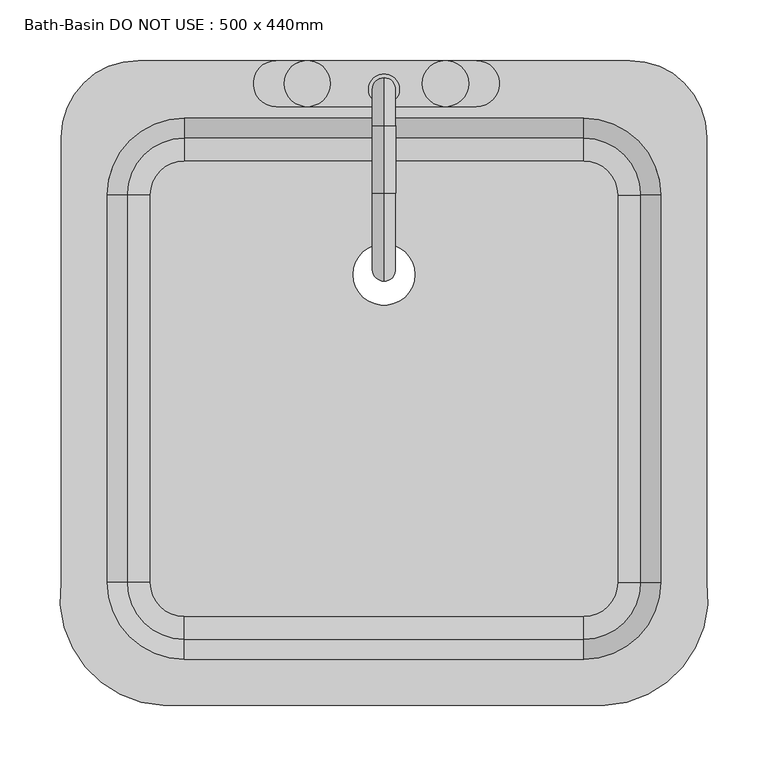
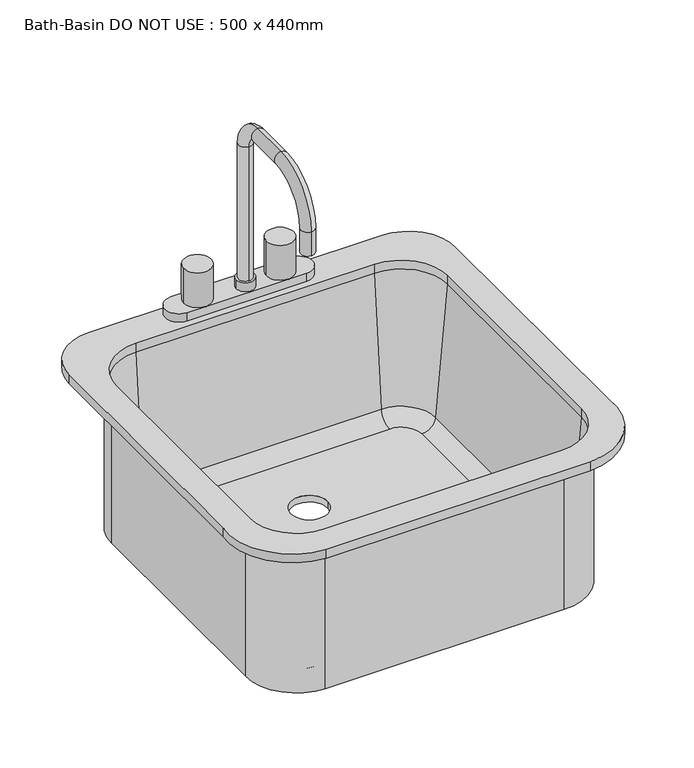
"""IFC4 building model written with IfcOpenShell, lengths in millimetres: flow terminal geometry, Bath-Basin DO NOT USE : 500 x 440mm."""

from ifc_helpers import new_model, si_unit, point, frame, origin, place, context, project, spatial, polyline, circle_curve, ellipse_curve, trimmed, source, transform, mapped, element, save
from ifc_brep_helpers import plane_surface, cylinder_surface, revolved_surface, advanced_brep


def bath_basin_do_not_use_500_x_440mm_3081fc1e(model_context):
    return source(origin(), model_context, "Body", "AdvancedBrep", [
        advanced_brep(
        [(250.6392406, 69.0204011, 546.1), (180.7892406, 138.8704011, 546.1), (180.7892406, 138.8704011, 762.0), (250.6392406, 69.0204011, 762.0), (250.6392406, -251.6545989, 546.1), (180.7892406, -321.5045989, 546.1), (-149.4107595, -321.5045989, 546.1), (-219.2607595, -251.6545989, 546.1), (-219.2607595, 69.0204011, 546.1), (-149.4107595, 138.8704011, 546.1), (-9.7107594, 3.175, 546.1), (41.0892406, 3.175, 546.1), (208.7776588, 69.0204011, 555.625), (180.7892406, 97.0088193, 555.625), (-149.4107595, 97.0088193, 555.625), (-177.3991777, 69.0204011, 555.625), (-177.3991777, -251.6545989, 555.625), (-149.4107595, -279.6430171, 555.625), (180.7892406, -279.6430171, 555.625), (208.7776588, -251.6545989, 555.625), (-9.7107594, 3.175, 555.625), (41.0892406, 3.175, 555.625), (227.7551678, 69.0204011, 573.0146831), (180.7892406, 115.9863283, 573.0146831), (244.2892406, 69.0204011, 762.0), (180.7892406, 132.5204011, 762.0), (250.6392406, -251.6545989, 762.0), (227.7551678, -251.6545989, 573.0146831), (244.2892406, -251.6545989, 762.0), (180.7892406, -321.5045989, 762.0), (180.7892406, -298.6205261, 573.0146831), (180.7892406, -315.1545989, 762.0), (-149.4107595, -321.5045989, 762.0), (-149.4107595, -298.6205261, 573.0146831), (-149.4107595, -315.1545989, 762.0), (-219.2607595, -251.6545989, 762.0), (-196.3766867, -251.6545989, 573.0146831), (-212.9107595, -251.6545989, 762.0), (-219.2607595, 69.0204011, 762.0), (-196.3766867, 69.0204011, 573.0146831), (-212.9107595, 69.0204011, 762.0), (-149.4107595, 138.8704011, 762.0), (-149.4107595, 115.9863283, 573.0146831), (-149.4107595, 132.5204011, 762.0), (-166.6606924, -353.2545989, 774.7), (198.0391735, -353.2545989, 774.7), (282.3892406, -251.6545989, 774.7), (282.3892406, 116.6454011, 774.7), (218.8892406, 180.1454011, 774.7), (-187.5107594, 180.1454011, 774.7), (-251.0107594, 116.6454011, 774.7), (-251.0107594, -251.6545982, 774.7), (180.7892406, 132.5204011, 774.7), (244.2892406, 69.0204011, 774.7), (244.2892406, -251.6545989, 774.7), (180.7892406, -315.1545989, 774.7), (-149.4107595, -315.1545989, 774.7), (-212.9107595, -251.6545989, 774.7), (-212.9107595, 69.0204011, 774.7), (-149.4107595, 132.5204011, 774.7), (-166.6606924, -353.2545989, 762.0), (-251.0107594, -251.6545982, 762.0), (-251.0107594, 116.6454011, 762.0), (-187.5107594, 180.1454011, 762.0), (218.8892406, 180.1454011, 762.0), (282.3892406, 116.6454011, 762.0), (282.3892406, -251.6545989, 762.0), (198.0391735, -353.2545989, 762.0)],
        [
            (0, 1, circle_curve(frame((180.7892406, 69.0204011, 546.1), z_axis=(0.0, 0.0, 1.0), x_axis=(0.0, 1.0, 0.0)), 69.85)),
            (1, 2),
            (2, 3, circle_curve(frame((180.7892406, 69.0204011, 762.0), z_axis=(0.0, 0.0, -1.0), x_axis=(0.0, 1.0, 0.0)), 69.85)),
            (3, 0),
            (0, 4),
            (4, 5, circle_curve(frame((180.7892406, -251.6545989, 546.1), z_axis=(0.0, 0.0, -1.0), x_axis=(1.0, 0.0, 0.0)), 69.85)),
            (5, 6),
            (6, 7, circle_curve(frame((-149.4107595, -251.6545989, 546.1), z_axis=(0.0, 0.0, -1.0), x_axis=(0.0, -1.0, 0.0)), 69.85)),
            (7, 8),
            (8, 9, circle_curve(frame((-149.4107595, 69.0204011, 546.1), z_axis=(0.0, 0.0, -1.0), x_axis=(-1.0, 0.0, 0.0)), 69.85)),
            (9, 1),
            (10, 11, circle_curve(frame((15.6892406, 3.175, 546.1), z_axis=(0.0, 0.0, 1.0), x_axis=(1.0, 0.0, 0.0)), 25.4)),
            (11, 10, circle_curve(frame((15.6892406, 3.175, 546.1), z_axis=(0.0, 0.0, 1.0), x_axis=(1.0, 0.0, 0.0)), 25.4)),
            (12, 13, circle_curve(frame((180.7892406, 69.0204011, 555.625), z_axis=(0.0, 0.0, 1.0), x_axis=(0.0, 1.0, 0.0)), 27.9884182)),
            (13, 14),
            (14, 15, circle_curve(frame((-149.4107595, 69.0204011, 555.625), z_axis=(0.0, 0.0, 1.0), x_axis=(-1.0, 0.0, 0.0)), 27.9884182)),
            (15, 16),
            (16, 17, circle_curve(frame((-149.4107595, -251.6545989, 555.625), z_axis=(0.0, 0.0, 1.0), x_axis=(0.0, -1.0, 0.0)), 27.9884182)),
            (17, 18),
            (18, 19, circle_curve(frame((180.7892406, -251.6545989, 555.625), z_axis=(0.0, 0.0, 1.0), x_axis=(1.0, 0.0, 0.0)), 27.9884182)),
            (19, 12),
            (20, 21, circle_curve(frame((15.6892406, 3.175, 555.625), z_axis=(0.0, 0.0, -1.0), x_axis=(1.0, 0.0, 0.0)), 25.4)),
            (21, 20, circle_curve(frame((15.6892406, 3.175, 555.625), z_axis=(0.0, 0.0, -1.0), x_axis=(1.0, 0.0, 0.0)), 25.4)),
            (12, 22, circle_curve(frame((208.7776588, 69.0204011, 574.675), z_axis=(0.0, -1.0, 0.0), x_axis=(1.0, 0.0, 0.0)), 19.05)),
            (22, 23, circle_curve(frame((180.7892406, 69.0204011, 573.0146831), z_axis=(0.0, 0.0, 1.0), x_axis=(0.0, 1.0, 0.0)), 46.9659272)),
            (23, 13, circle_curve(frame((180.7892406, 97.0088193, 574.675), z_axis=(-1.0, 0.0, 0.0), x_axis=(0.0, 1.0, 0.0)), 19.05)),
            (22, 24),
            (24, 25, circle_curve(frame((180.7892406, 69.0204011, 762.0), z_axis=(0.0, 0.0, 1.0), x_axis=(0.0, 1.0, 0.0)), 63.5)),
            (25, 23),
            (3, 26),
            (26, 4),
            (19, 27, circle_curve(frame((208.7776588, -251.6545989, 574.675), z_axis=(0.0, -1.0, 0.0), x_axis=(1.0, 0.0, 0.0)), 19.05)),
            (27, 22),
            (27, 28),
            (28, 24),
            (26, 29, circle_curve(frame((180.7892406, -251.6545989, 762.0), z_axis=(0.0, 0.0, -1.0), x_axis=(1.0, 0.0, 0.0)), 69.85)),
            (29, 5),
            (18, 30, circle_curve(frame((180.7892406, -279.6430171, 574.675), z_axis=(-1.0, 0.0, 0.0), x_axis=(0.0, -1.0, 0.0)), 19.05)),
            (30, 27, circle_curve(frame((180.7892406, -251.6545989, 573.0146831), z_axis=(0.0, 0.0, 1.0), x_axis=(1.0, 0.0, 0.0)), 46.9659272)),
            (30, 31),
            (31, 28, circle_curve(frame((180.7892406, -251.6545989, 762.0), z_axis=(0.0, 0.0, 1.0), x_axis=(1.0, 0.0, 0.0)), 63.5)),
            (29, 32),
            (32, 6),
            (17, 33, circle_curve(frame((-149.4107595, -279.6430171, 574.675), z_axis=(-1.0, 0.0, 0.0), x_axis=(0.0, -1.0, 0.0)), 19.05)),
            (33, 30),
            (33, 34),
            (34, 31),
            (32, 35, circle_curve(frame((-149.4107595, -251.6545989, 762.0), z_axis=(0.0, 0.0, -1.0), x_axis=(0.0, -1.0, 0.0)), 69.85)),
            (35, 7),
            (16, 36, circle_curve(frame((-177.3991777, -251.6545989, 574.675), z_axis=(0.0, 1.0, 0.0), x_axis=(-1.0, 0.0, 0.0)), 19.05)),
            (36, 33, circle_curve(frame((-149.4107595, -251.6545989, 573.0146831), z_axis=(0.0, 0.0, 1.0), x_axis=(0.0, -1.0, 0.0)), 46.9659272)),
            (36, 37),
            (37, 34, circle_curve(frame((-149.4107595, -251.6545989, 762.0), z_axis=(0.0, 0.0, 1.0), x_axis=(0.0, -1.0, 0.0)), 63.5)),
            (35, 38),
            (38, 8),
            (15, 39, circle_curve(frame((-177.3991777, 69.0204011, 574.675), z_axis=(0.0, 1.0, 0.0), x_axis=(-1.0, 0.0, 0.0)), 19.05)),
            (39, 36),
            (39, 40),
            (40, 37),
            (38, 41, circle_curve(frame((-149.4107595, 69.0204011, 762.0), z_axis=(0.0, 0.0, -1.0), x_axis=(-1.0, 0.0, 0.0)), 69.85)),
            (41, 9),
            (14, 42, circle_curve(frame((-149.4107595, 97.0088193, 574.675), z_axis=(1.0, 0.0, 0.0), x_axis=(0.0, 1.0, 0.0)), 19.05)),
            (42, 39, circle_curve(frame((-149.4107595, 69.0204011, 573.0146831), z_axis=(0.0, 0.0, 1.0), x_axis=(-1.0, 0.0, 0.0)), 46.9659272)),
            (42, 43),
            (43, 40, circle_curve(frame((-149.4107595, 69.0204011, 762.0), z_axis=(0.0, 0.0, 1.0), x_axis=(-1.0, 0.0, 0.0)), 63.5)),
            (41, 2),
            (23, 42),
            (25, 43),
            (20, 10),
            (11, 21),
            (44, 45),
            (45, 46, circle_curve(frame((194.2319558, -264.2793432, 774.7), z_axis=(0.0, 0.0, 1.0), x_axis=(1.0, 0.0, 0.0)), 89.0566732)),
            (46, 47),
            (47, 48, circle_curve(frame((218.8892406, 116.6454011, 774.7), z_axis=(0.0, 0.0, 1.0), x_axis=(1.0, 0.0, 0.0)), 63.5)),
            (48, 49),
            (49, 50, circle_curve(frame((-187.5107594, 116.6454011, 774.7), z_axis=(0.0, 0.0, 1.0), x_axis=(1.0, 0.0, 0.0)), 63.5)),
            (50, 51),
            (51, 44, circle_curve(frame((-162.8534746, -264.2793432, 774.7), z_axis=(0.0, 0.0, 1.0), x_axis=(1.0, 0.0, 0.0)), 89.0566732)),
            (52, 53, circle_curve(frame((180.7892406, 69.0204011, 774.7), z_axis=(0.0, 0.0, -1.0), x_axis=(1.0, 0.0, 0.0)), 63.5)),
            (53, 54),
            (54, 55, circle_curve(frame((180.7892406, -251.6545989, 774.7), z_axis=(0.0, 0.0, -1.0), x_axis=(1.0, 0.0, 0.0)), 63.5)),
            (55, 56),
            (56, 57, circle_curve(frame((-149.4107595, -251.6545989, 774.7), z_axis=(0.0, 0.0, -1.0), x_axis=(1.0, 0.0, 0.0)), 63.5)),
            (57, 58),
            (58, 59, circle_curve(frame((-149.4107595, 69.0204011, 774.7), z_axis=(0.0, 0.0, -1.0), x_axis=(1.0, 0.0, 0.0)), 63.5)),
            (59, 52),
            (60, 61, circle_curve(frame((-162.8534746, -264.2793432, 762.0), z_axis=(0.0, 0.0, -1.0), x_axis=(1.0, 0.0, 0.0)), 89.0566732)),
            (61, 62),
            (62, 63, circle_curve(frame((-187.5107594, 116.6454011, 762.0), z_axis=(0.0, 0.0, -1.0), x_axis=(1.0, 0.0, 0.0)), 63.5)),
            (63, 64),
            (64, 65, circle_curve(frame((218.8892406, 116.6454011, 762.0), z_axis=(0.0, 0.0, -1.0), x_axis=(1.0, 0.0, 0.0)), 63.5)),
            (65, 66),
            (66, 67, circle_curve(frame((194.2319558, -264.2793432, 762.0), z_axis=(0.0, 0.0, -1.0), x_axis=(1.0, 0.0, 0.0)), 89.0566732)),
            (67, 60),
            (44, 60),
            (67, 45),
            (66, 46),
            (65, 47),
            (64, 48),
            (63, 49),
            (62, 50),
            (61, 51),
            (52, 25),
            (24, 53),
            (28, 54),
            (31, 55),
            (34, 56),
            (37, 57),
            (40, 58),
            (43, 59),
        ],
        [
            cylinder_surface(frame((180.7892406, 69.0204011, 0.0), z_axis=(0.0, 0.0, -1.0), x_axis=(0.0, 1.0, 0.0)), 69.85),
            plane_surface(frame((180.7892406, 69.0204011, 546.1), z_axis=(0.0, 0.0, -1.0), x_axis=(0.0, 1.0, 0.0))),
            plane_surface(frame((180.7892406, 69.0204011, 555.625), z_axis=(0.0, 0.0, 1.0), x_axis=(0.0, 1.0, 0.0))),
            revolved_surface(trimmed(ellipse_curve(frame((180.7892406, 97.0088193, 574.675), z_axis=(1.0, 0.0, 0.0), x_axis=(0.0, 1.0, 0.0)), 19.05, 19.05), [point((180.7892406, 97.0088193, 555.625))], [point((180.7892406, 115.9863283, 573.0146831))], True, "CARTESIAN"), (180.7892406, 69.0204011, 0.0), (0.0, 0.0, -1.0)),
            revolved_surface(polyline([(180.7892406, 115.9863283, 573.0146831), (180.7892406, 132.5204011, 762.0)]), (180.7892406, 69.0204011, 0.0), (0.0, 0.0, -1.0)),
            plane_surface(frame((250.6392406, 69.0204011, 762.0), z_axis=(1.0, 0.0, 0.0), x_axis=(0.0, -1.0, 0.0))),
            revolved_surface(polyline([(227.82765880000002, -251.6545989, 574.675), (227.82765880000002, 69.0204011, 574.675)]), (208.7776588, 69.0204011, 574.675), (0.0, -1.0, 0.0)),
            plane_surface(frame((227.7551678, 69.0204011, 573.0146831), z_axis=(-0.9961946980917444, 0.0, 0.08715574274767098), x_axis=(0.0, -1.0, 0.0))),
            cylinder_surface(frame((180.7892406, -251.6545989, 0.0), z_axis=(0.0, 0.0, -1.0), x_axis=(1.0, 0.0, 0.0)), 69.85),
            revolved_surface(trimmed(ellipse_curve(frame((208.7776588, -251.6545989, 574.675), z_axis=(0.0, -1.0, 0.0), x_axis=(1.0, 0.0, 0.0)), 19.05, 19.05), [point((208.7776588, -251.6545989, 555.625))], [point((227.7551678, -251.6545989, 573.0146831))], True, "CARTESIAN"), (180.7892406, -251.6545989, 0.0), (0.0, 0.0, -1.0)),
            revolved_surface(polyline([(227.7551678, -251.6545989, 573.0146831), (244.2892406, -251.6545989, 762.0)]), (180.7892406, -251.6545989, 0.0), (0.0, 0.0, -1.0)),
            plane_surface(frame((180.7892406, -321.5045989, 762.0), z_axis=(0.0, -1.0, 0.0), x_axis=(-1.0, 0.0, 0.0))),
            revolved_surface(polyline([(-149.4107595, -298.6930171, 574.675), (180.7892406, -298.6930171, 574.675)]), (180.7892406, -279.6430171, 574.675), (-1.0, 0.0, 0.0)),
            plane_surface(frame((180.7892406, -298.6205261, 573.0146831), z_axis=(0.0, 0.9961946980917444, 0.08715574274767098), x_axis=(-1.0, 0.0, 0.0))),
            cylinder_surface(frame((-149.4107595, -251.6545989, 0.0), z_axis=(0.0, 0.0, -1.0), x_axis=(0.0, -1.0, 0.0)), 69.85),
            revolved_surface(trimmed(ellipse_curve(frame((-149.4107595, -279.6430171, 574.675), z_axis=(-1.0, 0.0, 0.0), x_axis=(0.0, -1.0, 0.0)), 19.05, 19.05), [point((-149.4107595, -279.6430171, 555.625))], [point((-149.4107595, -298.6205261, 573.0146831))], True, "CARTESIAN"), (-149.4107595, -251.6545989, 0.0), (0.0, 0.0, -1.0)),
            revolved_surface(polyline([(-149.4107595, -298.6205261, 573.0146831), (-149.4107595, -315.1545989, 762.0)]), (-149.4107595, -251.6545989, 0.0), (0.0, 0.0, -1.0)),
            plane_surface(frame((-219.2607595, -251.6545989, 762.0), z_axis=(-1.0, 0.0, 0.0), x_axis=(0.0, 1.0, 0.0))),
            revolved_surface(polyline([(-196.4491777, 69.02040110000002, 574.675), (-196.4491777, -251.6545989, 574.675)]), (-177.3991777, -251.6545989, 574.675), (0.0, 1.0, 0.0)),
            plane_surface(frame((-196.3766867, -251.6545989, 573.0146831), z_axis=(0.9961946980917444, 0.0, 0.08715574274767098), x_axis=(0.0, 1.0, 0.0))),
            cylinder_surface(frame((-149.4107595, 69.0204011, 0.0), z_axis=(0.0, 0.0, -1.0), x_axis=(-1.0, 0.0, 0.0)), 69.85),
            revolved_surface(trimmed(ellipse_curve(frame((-177.3991777, 69.0204011, 574.675), z_axis=(0.0, 1.0, 0.0), x_axis=(-1.0, 0.0, 0.0)), 19.05, 19.05), [point((-177.3991777, 69.0204011, 555.625))], [point((-196.3766867, 69.0204011, 573.0146831))], True, "CARTESIAN"), (-149.4107595, 69.0204011, 0.0), (0.0, 0.0, -1.0)),
            revolved_surface(polyline([(-196.3766867, 69.0204011, 573.0146831), (-212.9107595, 69.0204011, 762.0)]), (-149.4107595, 69.0204011, 0.0), (0.0, 0.0, -1.0)),
            plane_surface(frame((-149.4107595, 138.8704011, 762.0), z_axis=(0.0, 1.0, 0.0), x_axis=(1.0, 0.0, 0.0))),
            revolved_surface(polyline([(180.7892406, 116.0588193, 574.675), (-149.4107595, 116.0588193, 574.675)]), (-149.4107595, 97.0088193, 574.675), (1.0, 0.0, 0.0)),
            plane_surface(frame((-149.4107595, 115.9863283, 573.0146831), z_axis=(0.0, -0.9961946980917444, 0.08715574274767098), x_axis=(1.0, 0.0, 0.0))),
            revolved_surface(polyline([(41.0892406, 3.175, 546.1), (41.0892406, 3.175, 555.625)]), (15.6892406, 3.175, 0.0), (0.0, 0.0, -1.0)),
            plane_surface(frame((198.0391735, -353.2545989, 774.7), z_axis=(0.0, 0.0, 1.0), x_axis=(1.0, 0.0, 0.0))),
            plane_surface(frame((198.0391735, -353.2545989, 762.0), z_axis=(0.0, 0.0, -1.0), x_axis=(-1.0, 0.0, 0.0))),
            plane_surface(frame((-166.6606924, -353.2545989, 774.7), z_axis=(0.0, -1.0, 0.0), x_axis=(0.0, 0.0, -1.0))),
            cylinder_surface(frame((194.2319558, -264.2793432, 762.0), z_axis=(0.0, 0.0, 1.0), x_axis=(1.0, 0.0, 0.0)), 89.0566732),
            plane_surface(frame((282.3892406, -251.6545989, 774.7), z_axis=(1.0, 0.0, 0.0), x_axis=(0.0, 0.0, -1.0))),
            cylinder_surface(frame((218.8892406, 116.6454011, 762.0), z_axis=(0.0, 0.0, 1.0), x_axis=(1.0, 0.0, 0.0)), 63.5),
            plane_surface(frame((218.8892406, 180.1454011, 774.7), z_axis=(0.0, 1.0, 0.0), x_axis=(0.0, 0.0, -1.0))),
            cylinder_surface(frame((-187.5107594, 116.6454011, 762.0), z_axis=(0.0, 0.0, 1.0), x_axis=(1.0, 0.0, 0.0)), 63.5),
            plane_surface(frame((-251.0107594, 116.6454011, 774.7), z_axis=(-1.0, 0.0, 0.0), x_axis=(0.0, 0.0, -1.0))),
            cylinder_surface(frame((-162.8534746, -264.2793432, 762.0), z_axis=(0.0, 0.0, 1.0), x_axis=(1.0, 0.0, 0.0)), 89.0566732),
            revolved_surface(polyline([(244.2892406, 69.0204011, 762.0), (244.2892406, 69.0204011, 774.7)]), (180.7892406, 69.0204011, 0.0), (0.0, 0.0, -1.0)),
            plane_surface(frame((244.2892406, 69.0204011, 774.7), z_axis=(-1.0, 0.0, 0.0), x_axis=(0.0, 0.0, -1.0))),
            revolved_surface(polyline([(244.2892406, -251.6545989, 762.0), (244.2892406, -251.6545989, 774.7)]), (180.7892406, -251.6545989, 0.0), (0.0, 0.0, -1.0)),
            plane_surface(frame((180.7892406, -315.1545989, 774.7), z_axis=(0.0, 1.0, 0.0), x_axis=(0.0, 0.0, -1.0))),
            revolved_surface(polyline([(-85.91075950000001, -251.6545989, 762.0), (-85.91075950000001, -251.6545989, 774.7)]), (-149.4107595, -251.6545989, 0.0), (0.0, 0.0, -1.0)),
            plane_surface(frame((-212.9107595, -251.6545989, 774.7), z_axis=(1.0, 0.0, 0.0), x_axis=(0.0, 0.0, -1.0))),
            revolved_surface(polyline([(-85.91075950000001, 69.0204011, 762.0), (-85.91075950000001, 69.0204011, 774.7)]), (-149.4107595, 69.0204011, 0.0), (0.0, 0.0, -1.0)),
            plane_surface(frame((-149.4107595, 132.5204011, 774.7), z_axis=(0.0, -1.0, 0.0), x_axis=(0.0, 0.0, -1.0))),
        ],
        [
            (0, [[1, 2, 3, 4]]),
            (1, [[-1, 5, 6, 7, 8, 9, 10, 11], [12, 13]]),
            (2, [[14, 15, 16, 17, 18, 19, 20, 21], [22, 23]]),
            (3, [[-14, 24, 25, 26]]),
            (4, [[-25, 27, 28, 29]]),
            (5, [[-4, 30, 31, -5]]),
            (6, [[-24, -21, 32, 33]]),
            (7, [[-27, -33, 34, 35]]),
            (8, [[-31, 36, 37, -6]]),
            (9, [[-32, -20, 38, 39]]),
            (10, [[-34, -39, 40, 41]]),
            (11, [[-37, 42, 43, -7]]),
            (12, [[-38, -19, 44, 45]]),
            (13, [[-40, -45, 46, 47]]),
            (14, [[-43, 48, 49, -8]]),
            (15, [[-44, -18, 50, 51]]),
            (16, [[-46, -51, 52, 53]]),
            (17, [[-49, 54, 55, -9]]),
            (18, [[-50, -17, 56, 57]]),
            (19, [[-52, -57, 58, 59]]),
            (20, [[-55, 60, 61, -10]]),
            (21, [[-56, -16, 62, 63]]),
            (22, [[-58, -63, 64, 65]]),
            (23, [[-2, -11, -61, 66]]),
            (24, [[-26, 67, -62, -15]]),
            (25, [[-29, 68, -64, -67]]),
            (26, [[-22, 69, -13, 70]]),
            (26, [[-23, -70, -12, -69]]),
            (27, [[71, 72, 73, 74, 75, 76, 77, 78], [79, 80, 81, 82, 83, 84, 85, 86]]),
            (28, [[87, 88, 89, 90, 91, 92, 93, 94], [-3, -66, -60, -54, -48, -42, -36, -30]]),
            (29, [[-71, 95, -94, 96]]),
            (30, [[-72, -96, -93, 97]]),
            (31, [[-73, -97, -92, 98]]),
            (32, [[-74, -98, -91, 99]]),
            (33, [[-75, -99, -90, 100]]),
            (34, [[-76, -100, -89, 101]]),
            (35, [[-77, -101, -88, 102]]),
            (36, [[-78, -102, -87, -95]]),
            (37, [[-79, 103, -28, 104]]),
            (38, [[-80, -104, -35, 105]]),
            (39, [[-81, -105, -41, 106]]),
            (40, [[-82, -106, -47, 107]]),
            (41, [[-83, -107, -53, 108]]),
            (42, [[-84, -108, -59, 109]]),
            (43, [[-85, -109, -65, 110]]),
            (44, [[-86, -110, -68, -103]]),
        ],
    ),
        advanced_brep(
        [(91.8892406, 180.1454011, 774.7), (91.8892406, 142.0454011, 774.7), (66.4892406, 142.0454011, 774.7), (-47.8107594, 142.0454011, 774.7), (-73.2107594, 142.0454011, 774.7), (-73.2107594, 180.1454011, 774.7), (-47.8107594, 180.1454011, 774.7), (66.4892406, 180.1454011, 774.7), (15.6892406, 165.8579011, 995.3625), (15.6892406, 146.8079011, 995.3625), (15.6892406, 146.8079011, 800.1), (15.6892406, 165.8579011, 800.1), (15.6892406, 126.1704011, 1035.05), (15.6892406, 126.1704011, 1016.0), (15.6892406, 70.6079011, 1035.05), (15.6892406, 70.6079011, 1016.0), (15.6892406, -2.4170989, 962.025), (15.6892406, 16.6329011, 962.025), (15.6892406, -2.4170989, 927.1), (15.6892406, 16.6329011, 927.1), (2.9892406, 156.3329011, 800.1), (28.3892406, 156.3329011, 800.1), (2.9892406, 156.3329011, 787.2), (28.3892406, 156.3329011, 787.2), (-73.2107594, 180.1454011, 787.2), (-73.2107594, 142.0454011, 787.2), (-47.8107594, 142.0454011, 787.2), (-66.8607594, 161.0954011, 787.2), (-47.8107594, 180.1454011, 787.2), (91.8892406, 142.0454011, 787.2), (91.8892406, 180.1454011, 787.2), (66.4892406, 180.1454011, 787.2), (85.5392406, 161.0954011, 787.2), (66.4892406, 142.0454011, 787.2), (-28.7607594, 161.0954011, 787.2), (47.4392406, 161.0954011, 787.2), (-66.8607594, 161.0954011, 838.2), (-28.7607594, 161.0954011, 838.2), (47.4392406, 161.0954011, 838.2), (85.5392406, 161.0954011, 838.2)],
        [
            (0, 1, circle_curve(frame((91.8892406, 161.0954011, 774.7), z_axis=(0.0, 0.0, -1.0), x_axis=(1.0, 0.0, 0.0)), 19.05)),
            (1, 2),
            (2, 3),
            (3, 4),
            (4, 5, circle_curve(frame((-73.2107594, 161.0954011, 774.7), z_axis=(0.0, 0.0, -1.0), x_axis=(1.0, 0.0, 0.0)), 19.05)),
            (5, 6),
            (6, 7),
            (7, 0),
            (8, 9, circle_curve(frame((15.6892406, 156.3329011, 995.3625), z_axis=(0.0, 0.0, -1.0), x_axis=(0.0, -1.0, 0.0)), 9.525)),
            (9, 10),
            (10, 11, circle_curve(frame((15.6892406, 156.3329011, 800.1), z_axis=(0.0, 0.0, 1.0), x_axis=(0.0, -1.0, 0.0)), 9.525)),
            (11, 8),
            (9, 8, circle_curve(frame((15.6892406, 156.3329011, 995.3625), z_axis=(0.0, 0.0, -1.0), x_axis=(0.0, -1.0, 0.0)), 9.525)),
            (11, 10, circle_curve(frame((15.6892406, 156.3329011, 800.1), z_axis=(0.0, 0.0, 1.0), x_axis=(0.0, -1.0, 0.0)), 9.525)),
            (8, 12, circle_curve(frame((15.6892406, 126.1704011, 995.3625), z_axis=(1.0, 0.0, 0.0), x_axis=(0.0, 1.0, 0.0)), 39.6875)),
            (12, 13, circle_curve(frame((15.6892406, 126.1704011, 1025.525), z_axis=(0.0, 1.0, 0.0), x_axis=(0.0, 0.0, -1.0)), 9.525)),
            (13, 9, circle_curve(frame((15.6892406, 126.1704011, 995.3625), z_axis=(-1.0, 0.0, 0.0), x_axis=(0.0, 1.0, 0.0)), 20.6375)),
            (13, 12, circle_curve(frame((15.6892406, 126.1704011, 1025.525), z_axis=(0.0, 1.0, 0.0), x_axis=(0.0, 0.0, -1.0)), 9.525)),
            (12, 14),
            (14, 15, circle_curve(frame((15.6892406, 70.6079011, 1025.525), z_axis=(0.0, 1.0, 0.0), x_axis=(0.0, 0.0, -1.0)), 9.525)),
            (15, 13),
            (15, 14, circle_curve(frame((15.6892406, 70.6079011, 1025.525), z_axis=(0.0, 1.0, 0.0), x_axis=(0.0, 0.0, -1.0)), 9.525)),
            (14, 16, circle_curve(frame((15.6892406, 70.6079011, 962.025), z_axis=(1.0, 0.0, 0.0), x_axis=(0.0, 0.0, 1.0)), 73.025)),
            (16, 17, circle_curve(frame((15.6892406, 7.1079011, 962.025), z_axis=(0.0, 0.0, 1.0), x_axis=(0.0, 1.0, 0.0)), 9.525)),
            (17, 15, circle_curve(frame((15.6892406, 70.6079011, 962.025), z_axis=(-1.0, 0.0, 0.0), x_axis=(0.0, 0.0, 1.0)), 53.975)),
            (17, 16, circle_curve(frame((15.6892406, 7.1079011, 962.025), z_axis=(0.0, 0.0, 1.0), x_axis=(0.0, 1.0, 0.0)), 9.525)),
            (18, 19, circle_curve(frame((15.6892406, 7.1079011, 927.1), z_axis=(0.0, 0.0, -1.0), x_axis=(0.0, 1.0, 0.0)), 9.525)),
            (19, 18, circle_curve(frame((15.6892406, 7.1079011, 927.1), z_axis=(0.0, 0.0, -1.0), x_axis=(0.0, 1.0, 0.0)), 9.525)),
            (16, 18),
            (19, 17),
            (20, 21, circle_curve(frame((15.6892406, 156.3329011, 800.1), z_axis=(0.0, 0.0, 1.0), x_axis=(1.0, 0.0, 0.0)), 12.7)),
            (21, 20, circle_curve(frame((15.6892406, 156.3329011, 800.1), z_axis=(0.0, 0.0, 1.0), x_axis=(1.0, 0.0, 0.0)), 12.7)),
            (20, 22),
            (22, 23, circle_curve(frame((15.6892406, 156.3329011, 787.2), z_axis=(0.0, 0.0, 1.0), x_axis=(1.0, 0.0, 0.0)), 12.7)),
            (23, 21),
            (23, 22, circle_curve(frame((15.6892406, 156.3329011, 787.2), z_axis=(0.0, 0.0, 1.0), x_axis=(1.0, 0.0, 0.0)), 12.7)),
            (24, 25, circle_curve(frame((-73.2107594, 161.0954011, 787.2), z_axis=(0.0, 0.0, 1.0), x_axis=(1.0, 0.0, 0.0)), 19.05)),
            (25, 26),
            (26, 27, circle_curve(frame((-47.8107594, 161.0954011, 787.2), z_axis=(0.0, 0.0, -1.0), x_axis=(1.0, 0.0, 0.0)), 19.05)),
            (27, 28, circle_curve(frame((-47.8107594, 161.0954011, 787.2), z_axis=(0.0, 0.0, -1.0), x_axis=(1.0, 0.0, 0.0)), 19.05)),
            (28, 24),
            (29, 30, circle_curve(frame((91.8892406, 161.0954011, 787.2), z_axis=(0.0, 0.0, 1.0), x_axis=(1.0, 0.0, 0.0)), 19.05)),
            (30, 31),
            (31, 32, circle_curve(frame((66.4892406, 161.0954011, 787.2), z_axis=(0.0, 0.0, -1.0), x_axis=(1.0, 0.0, 0.0)), 19.05)),
            (32, 33, circle_curve(frame((66.4892406, 161.0954011, 787.2), z_axis=(0.0, 0.0, -1.0), x_axis=(1.0, 0.0, 0.0)), 19.05)),
            (33, 29),
            (31, 28),
            (28, 34, circle_curve(frame((-47.8107594, 161.0954011, 787.2), z_axis=(0.0, 0.0, -1.0), x_axis=(1.0, 0.0, 0.0)), 19.05)),
            (34, 26, circle_curve(frame((-47.8107594, 161.0954011, 787.2), z_axis=(0.0, 0.0, -1.0), x_axis=(1.0, 0.0, 0.0)), 19.05)),
            (26, 33),
            (33, 35, circle_curve(frame((66.4892406, 161.0954011, 787.2), z_axis=(0.0, 0.0, -1.0), x_axis=(1.0, 0.0, 0.0)), 19.05)),
            (35, 31, circle_curve(frame((66.4892406, 161.0954011, 787.2), z_axis=(0.0, 0.0, -1.0), x_axis=(1.0, 0.0, 0.0)), 19.05)),
            (30, 0),
            (5, 24),
            (4, 25),
            (1, 29),
            (36, 37, circle_curve(frame((-47.8107594, 161.0954011, 838.2), z_axis=(0.0, 0.0, 1.0), x_axis=(1.0, 0.0, 0.0)), 19.05)),
            (37, 36, circle_curve(frame((-47.8107594, 161.0954011, 838.2), z_axis=(0.0, 0.0, 1.0), x_axis=(1.0, 0.0, 0.0)), 19.05)),
            (38, 39, circle_curve(frame((66.4892406, 161.0954011, 838.2), z_axis=(0.0, 0.0, 1.0), x_axis=(1.0, 0.0, 0.0)), 19.05)),
            (39, 38, circle_curve(frame((66.4892406, 161.0954011, 838.2), z_axis=(0.0, 0.0, 1.0), x_axis=(1.0, 0.0, 0.0)), 19.05)),
            (36, 27),
            (34, 37),
            (38, 35),
            (32, 39),
        ],
        [
            plane_surface(frame((15.6892406, 146.8079011, 774.7), z_axis=(0.0, 0.0, -1.0), x_axis=(1.0, 0.0, 0.0))),
            cylinder_surface(frame((15.6892406, 156.3329011, 774.7), z_axis=(0.0, 0.0, -1.0), x_axis=(0.0, -1.0, 0.0)), 9.525),
            revolved_surface(trimmed(ellipse_curve(frame((15.6892406, 156.3329011, 995.3625), z_axis=(0.0, 0.0, -1.0), x_axis=(0.0, -1.0, 0.0)), 9.525, 9.525), [point((15.6892406, 165.8579011, 995.3625))], [point((15.6892406, 146.8079011, 995.3625))], True, "CARTESIAN"), (15.6892406, 126.1704011, 995.3625), (1.0, 0.0, 0.0)),
            revolved_surface(trimmed(ellipse_curve(frame((15.6892406, 156.3329011, 995.3625), z_axis=(0.0, 0.0, -1.0), x_axis=(0.0, -1.0, 0.0)), 9.525, 9.525), [point((15.6892406, 146.8079011, 995.3625))], [point((15.6892406, 165.8579011, 995.3625))], True, "CARTESIAN"), (15.6892406, 126.1704011, 995.3625), (1.0, 0.0, 0.0)),
            cylinder_surface(frame((15.6892406, 126.1704011, 1025.525), z_axis=(0.0, 1.0, 0.0), x_axis=(0.0, 0.0, -1.0)), 9.525),
            revolved_surface(trimmed(ellipse_curve(frame((15.6892406, 70.6079011, 1025.525), z_axis=(0.0, 1.0, 0.0), x_axis=(0.0, 0.0, -1.0)), 9.525, 9.525), [point((15.6892406, 70.6079011, 1035.05))], [point((15.6892406, 70.6079011, 1016.0))], True, "CARTESIAN"), (15.6892406, 70.6079011, 962.025), (1.0, 0.0, 0.0)),
            revolved_surface(trimmed(ellipse_curve(frame((15.6892406, 70.6079011, 1025.525), z_axis=(0.0, 1.0, 0.0), x_axis=(0.0, 0.0, -1.0)), 9.525, 9.525), [point((15.6892406, 70.6079011, 1016.0))], [point((15.6892406, 70.6079011, 1035.05))], True, "CARTESIAN"), (15.6892406, 70.6079011, 962.025), (1.0, 0.0, 0.0)),
            plane_surface(frame((15.6892406, -2.4170989, 927.1), z_axis=(0.0, 0.0, -1.0), x_axis=(-1.0, 0.0, 0.0))),
            cylinder_surface(frame((15.6892406, 7.1079011, 962.025), z_axis=(0.0, 0.0, 1.0), x_axis=(0.0, 1.0, 0.0)), 9.525),
            plane_surface(frame((28.3892406, 156.3329011, 800.1), z_axis=(0.0, 0.0, 1.0), x_axis=(0.0, 1.0, 0.0))),
            cylinder_surface(frame((15.6892406, 156.3329011, 774.7), z_axis=(0.0, 0.0, 1.0), x_axis=(1.0, 0.0, 0.0)), 12.7),
            plane_surface(frame((-73.2107594, 180.1454011, 787.2), z_axis=(0.0, 0.0, 1.0), x_axis=(-1.0, 0.0, 0.0))),
            plane_surface(frame((91.8892406, 180.1454011, 787.2), z_axis=(0.0, 1.0, 0.0), x_axis=(0.0, 0.0, -1.0))),
            cylinder_surface(frame((-73.2107594, 161.0954011, 774.7), z_axis=(0.0, 0.0, 1.0), x_axis=(1.0, 0.0, 0.0)), 19.05),
            plane_surface(frame((-73.2107594, 142.0454011, 787.2), z_axis=(0.0, -1.0, 0.0), x_axis=(0.0, 0.0, -1.0))),
            cylinder_surface(frame((91.8892406, 161.0954011, 774.7), z_axis=(0.0, 0.0, 1.0), x_axis=(1.0, 0.0, 0.0)), 19.05),
            plane_surface(frame((-28.7607594, 161.0954011, 838.2), z_axis=(0.0, 0.0, 1.0), x_axis=(0.0, 1.0, 0.0))),
            cylinder_surface(frame((-47.8107594, 161.0954011, 774.7), z_axis=(0.0, 0.0, 1.0), x_axis=(1.0, 0.0, 0.0)), 19.05),
            cylinder_surface(frame((66.4892406, 161.0954011, 0.0), z_axis=(0.0, 0.0, 1.0), x_axis=(1.0, 0.0, 0.0)), 19.05),
        ],
        [
            (0, [[1, 2, 3, 4, 5, 6, 7, 8]]),
            (1, [[9, 10, 11, 12]]),
            (1, [[13, -12, 14, -10]]),
            (2, [[-9, 15, 16, 17]]),
            (3, [[-13, -17, 18, -15]]),
            (4, [[-16, 19, 20, 21]]),
            (4, [[-18, -21, 22, -19]]),
            (5, [[-20, 23, 24, 25]]),
            (6, [[-22, -25, 26, -23]]),
            (7, [[27, 28]]),
            (8, [[-24, 29, -28, 30]]),
            (8, [[-26, -30, -27, -29]]),
            (9, [[31, 32], [-11, -14]]),
            (10, [[-31, 33, 34, 35]]),
            (10, [[-32, -35, 36, -33]]),
            (11, [[37, 38, 39, 40, 41]]),
            (11, [[42, 43, 44, 45, 46]]),
            (11, [[47, 48, 49, 50, 51, 52], [-34, -36]]),
            (12, [[53, -8, -7, -6, 54, -41, -47, -43]]),
            (13, [[-37, -54, -5, 55]]),
            (14, [[-55, -4, -3, -2, 56, -46, -50, -38]]),
            (15, [[-42, -56, -1, -53]]),
            (16, [[57, 58]]),
            (16, [[59, 60]]),
            (17, [[-57, 61, -39, -49, 62]]),
            (17, [[-58, -62, -48, -40, -61]]),
            (18, [[-59, 63, -51, -45, 64]]),
            (18, [[-60, -64, -44, -52, -63]]),
        ],
    ),
    ])


if __name__ == "__main__":
    model = new_model("IFC4")
    model_context = context("Model", 3, world=origin())
    ifc_project = project(units=[si_unit("LENGTHUNIT", "METRE", prefix="MILLI")], contexts=[model_context])
    site = spatial("IfcSite", under=ifc_project)
    building = spatial("IfcBuilding", under=site)
    placement = place(None, origin())
    bath_basin_do_not_use_500_x_440mm_shape = bath_basin_do_not_use_500_x_440mm_3081fc1e(model_context)
    element("IfcFlowTerminal", 1, ObjectType="Bath-Basin DO NOT USE : 500 x 440mm", at=placement, inside=building, context=model_context, shape_type="MappedRepresentation", body=[
        mapped(bath_basin_do_not_use_500_x_440mm_shape, transform((0.0, 0.0, 0.0), x_axis=(1.0, 0.0, 0.0), y_axis=(0.0, 1.0, 0.0), z_axis=(0.0, 0.0, 1.0))),
    ])
    save(model, "model.ifc")
